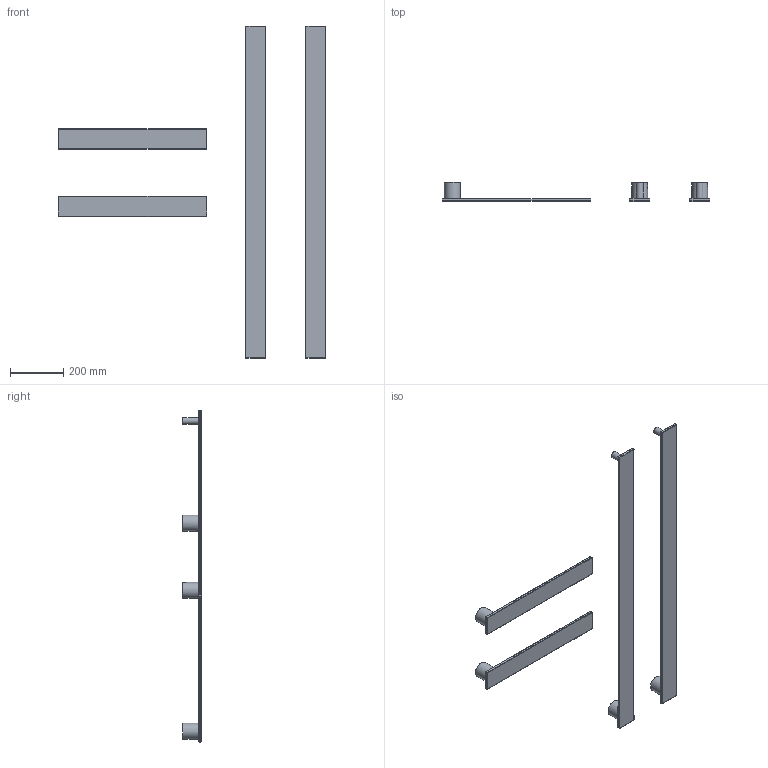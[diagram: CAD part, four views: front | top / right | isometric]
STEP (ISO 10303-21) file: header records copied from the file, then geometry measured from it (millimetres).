
FILE_DESCRIPTION ((), '1');
FILE_NAME ('/Users/melo21casa/Desktop/Disegni 3D x D. Diliberto/HAND 8-55_123 3d.stp', '2025-07-17T17:31:12', ('Unknown'), ('Unknown'), 'HarmonyWare STEP v2.1.7', 'Vectorworks', '');
FILE_SCHEMA (('CONFIG_CONTROL_DESIGN'));
Length unit declared in the file: millimetre
Bounding box: 1008.75 x 70.37 x 1250 mm (x, y, z)
Volume: 3522787.1 mm3; surface area: 705163.5 mm2
Topology: 10 solids, 10 shells, 122 faces, 242 edges, 108 vertices
Faces by surface type: bspline 122
Entity records: 3229 total; most frequent: CARTESIAN_POINT 1874, ORIENTED_EDGE 420, EDGE_CURVE 210, EDGE_LOOP 122, FACE_OUTER_BOUND 122, ADVANCED_FACE 122, VERTEX_POINT 108, B_SPLINE_CURVE_WITH_KNOTS 102
